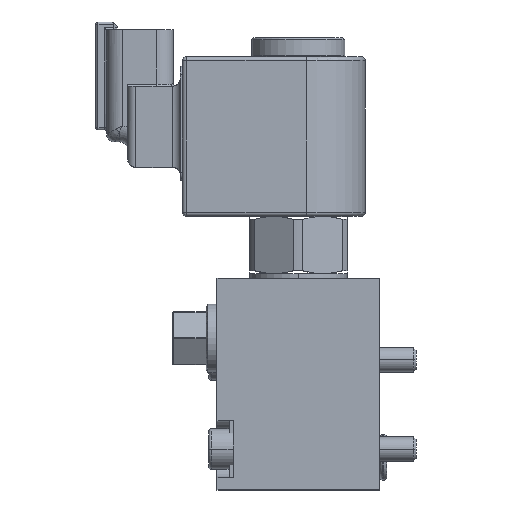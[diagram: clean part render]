
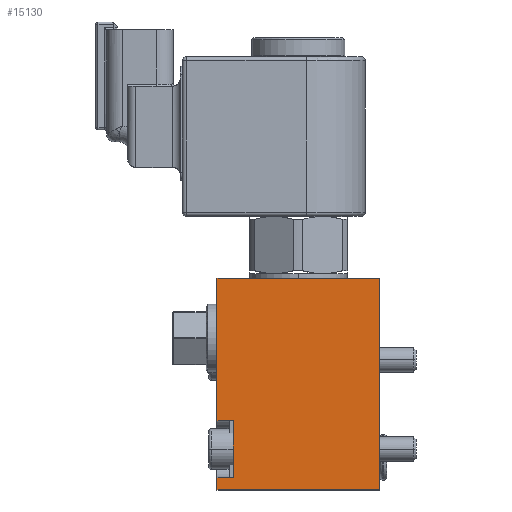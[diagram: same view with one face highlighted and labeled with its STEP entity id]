
A CAD part, top view. The second image highlights one B-rep face of the part: STEP entity #15130.
In plain terms, the highlighted planar face has unit normal (0, 0, 1).
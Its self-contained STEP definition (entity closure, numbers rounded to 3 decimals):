
#170 = CARTESIAN_POINT ( 'NONE',  ( 4., -35., 44. ) ) ;
#248 = LINE ( 'NONE', #18015, #18675 ) ;
#995 = LINE ( 'NONE', #8077, #12534 ) ;
#1296 = CARTESIAN_POINT ( 'NONE',  ( 40., -52., 44. ) ) ;
#1454 = VECTOR ( 'NONE', #22492, 1000. ) ;
#1587 = ORIENTED_EDGE ( 'NONE', *, *, #9681, .T. ) ;
#2290 = CARTESIAN_POINT ( 'NONE',  ( 0., 0., 44. ) ) ;
#2444 = ORIENTED_EDGE ( 'NONE', *, *, #23886, .F. ) ;
#2465 = DIRECTION ( 'NONE',  ( -1., 0., 0. ) ) ;
#2812 = EDGE_LOOP ( 'NONE', ( #2444, #1587, #17576, #5121, #13182, #15098, #29012, #22168 ) ) ;
#3580 = CARTESIAN_POINT ( 'NONE',  ( 0., -49., 44. ) ) ;
#4081 = VECTOR ( 'NONE', #14217, 1000. ) ;
#4614 = DIRECTION ( 'NONE',  ( -1., 0., 0. ) ) ;
#5121 = ORIENTED_EDGE ( 'NONE', *, *, #5542, .T. ) ;
#5181 = CARTESIAN_POINT ( 'NONE',  ( 0., 0., 44. ) ) ;
#5510 = DIRECTION ( 'NONE',  ( 0., 1., 0. ) ) ;
#5542 = EDGE_CURVE ( 'NONE', #26312, #7894, #28783, .T. ) ;
#6682 = AXIS2_PLACEMENT_3D ( 'NONE', #8881, #24625, #13205 ) ;
#6945 = CARTESIAN_POINT ( 'NONE',  ( 0., -35., 44. ) ) ;
#7894 = VERTEX_POINT ( 'NONE', #1296 ) ;
#8077 = CARTESIAN_POINT ( 'NONE',  ( 4., 0., 44. ) ) ;
#8742 = LINE ( 'NONE', #15993, #27215 ) ;
#8881 = CARTESIAN_POINT ( 'NONE',  ( 0., 0., 44. ) ) ;
#9073 = LINE ( 'NONE', #2290, #1454 ) ;
#9681 = EDGE_CURVE ( 'NONE', #24576, #19521, #16555, .T. ) ;
#10164 = DIRECTION ( 'NONE',  ( 0., 1., 0. ) ) ;
#10417 = VECTOR ( 'NONE', #20185, 1000. ) ;
#10542 = VECTOR ( 'NONE', #5510, 1000. ) ;
#10919 = VERTEX_POINT ( 'NONE', #12317 ) ;
#11199 = EDGE_CURVE ( 'NONE', #10919, #25981, #27582, .T. ) ;
#11838 = CARTESIAN_POINT ( 'NONE',  ( 40., 0., 44. ) ) ;
#12128 = CARTESIAN_POINT ( 'NONE',  ( 4., -49., 44. ) ) ;
#12317 = CARTESIAN_POINT ( 'NONE',  ( 0., 0., 44. ) ) ;
#12534 = VECTOR ( 'NONE', #10164, 1000. ) ;
#12551 = CARTESIAN_POINT ( 'NONE',  ( 40., 0., 44. ) ) ;
#13182 = ORIENTED_EDGE ( 'NONE', *, *, #16426, .T. ) ;
#13205 = DIRECTION ( 'NONE',  ( 1., 0., 0. ) ) ;
#13619 = CARTESIAN_POINT ( 'NONE',  ( 19.232, -49., 44. ) ) ;
#13629 = VECTOR ( 'NONE', #22691, 1000. ) ;
#14217 = DIRECTION ( 'NONE',  ( 0., -1., 0. ) ) ;
#15098 = ORIENTED_EDGE ( 'NONE', *, *, #24813, .T. ) ;
#15130 = ADVANCED_FACE ( 'NONE', ( #15283 ), #26866, .T. ) ;
#15283 = FACE_OUTER_BOUND ( 'NONE', #2812, .T. ) ;
#15993 = CARTESIAN_POINT ( 'NONE',  ( 0., 0., 44. ) ) ;
#16426 = EDGE_CURVE ( 'NONE', #7894, #17876, #16899, .T. ) ;
#16555 = LINE ( 'NONE', #13619, #13629 ) ;
#16899 = LINE ( 'NONE', #11838, #10542 ) ;
#17576 = ORIENTED_EDGE ( 'NONE', *, *, #21120, .T. ) ;
#17876 = VERTEX_POINT ( 'NONE', #12551 ) ;
#18015 = CARTESIAN_POINT ( 'NONE',  ( 19.232, -35., 44. ) ) ;
#18675 = VECTOR ( 'NONE', #2465, 1000. ) ;
#19521 = VERTEX_POINT ( 'NONE', #3580 ) ;
#20185 = DIRECTION ( 'NONE',  ( 1., 0., 0. ) ) ;
#20246 = EDGE_CURVE ( 'NONE', #22162, #25981, #248, .T. ) ;
#21120 = EDGE_CURVE ( 'NONE', #19521, #26312, #9073, .T. ) ;
#22162 = VERTEX_POINT ( 'NONE', #170 ) ;
#22168 = ORIENTED_EDGE ( 'NONE', *, *, #20246, .F. ) ;
#22492 = DIRECTION ( 'NONE',  ( 0., -1., 0. ) ) ;
#22691 = DIRECTION ( 'NONE',  ( -1., 0., 0. ) ) ;
#23886 = EDGE_CURVE ( 'NONE', #24576, #22162, #995, .T. ) ;
#24576 = VERTEX_POINT ( 'NONE', #12128 ) ;
#24625 = DIRECTION ( 'NONE',  ( 0., 0., 1. ) ) ;
#24813 = EDGE_CURVE ( 'NONE', #17876, #10919, #8742, .T. ) ;
#25641 = CARTESIAN_POINT ( 'NONE',  ( 0., -52., 44. ) ) ;
#25981 = VERTEX_POINT ( 'NONE', #6945 ) ;
#26312 = VERTEX_POINT ( 'NONE', #25641 ) ;
#26866 = PLANE ( 'NONE',  #6682 ) ;
#27215 = VECTOR ( 'NONE', #4614, 1000. ) ;
#27582 = LINE ( 'NONE', #5181, #4081 ) ;
#28783 = LINE ( 'NONE', #28920, #10417 ) ;
#28920 = CARTESIAN_POINT ( 'NONE',  ( 0., -52., 44. ) ) ;
#29012 = ORIENTED_EDGE ( 'NONE', *, *, #11199, .T. ) ;
